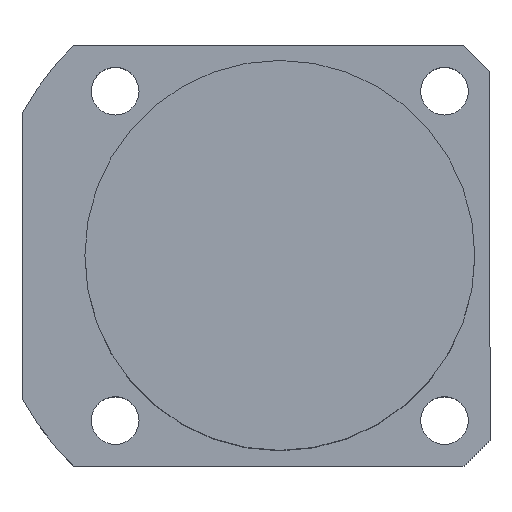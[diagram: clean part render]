
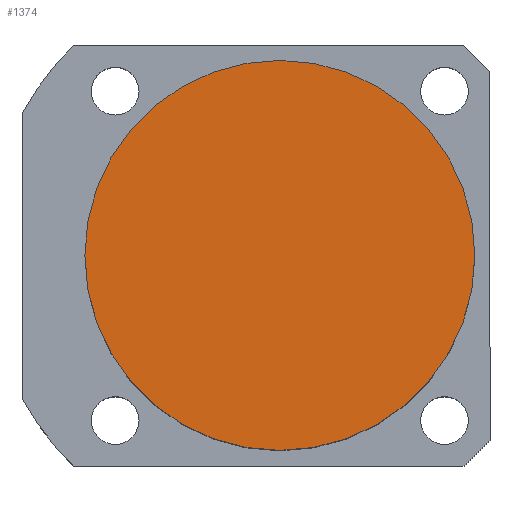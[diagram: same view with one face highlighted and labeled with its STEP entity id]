
A CAD part, top view. The second image highlights one B-rep face of the part: STEP entity #1374.
In plain terms, the highlighted planar face has unit normal (0, 0, 1).
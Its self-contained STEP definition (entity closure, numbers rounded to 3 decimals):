
#74 = DIRECTION ( 'NONE',  ( 1., 0., 0. ) ) ;
#174 = CARTESIAN_POINT ( 'NONE',  ( 45., 0., 74.5 ) ) ;
#203 = VERTEX_POINT ( 'NONE', #174 ) ;
#213 = CARTESIAN_POINT ( 'NONE',  ( 0., 0., 74.5 ) ) ;
#284 = DIRECTION ( 'NONE',  ( 1., 0., 0. ) ) ;
#313 = CARTESIAN_POINT ( 'NONE',  ( 0., 0., 74.5 ) ) ;
#379 = DIRECTION ( 'NONE',  ( 1., 0., 0. ) ) ;
#483 = CIRCLE ( 'NONE', #1139, 45. ) ;
#567 = CARTESIAN_POINT ( 'NONE',  ( 0., 0., 74.5 ) ) ;
#705 = DIRECTION ( 'NONE',  ( 0., 0., 1. ) ) ;
#847 = EDGE_CURVE ( 'NONE', #203, #1877, #968, .T. ) ;
#968 = CIRCLE ( 'NONE', #1299, 45. ) ;
#1068 = EDGE_CURVE ( 'NONE', #1877, #203, #483, .T. ) ;
#1101 = ORIENTED_EDGE ( 'NONE', *, *, #1068, .T. ) ;
#1139 = AXIS2_PLACEMENT_3D ( 'NONE', #313, #1150, #284 ) ;
#1150 = DIRECTION ( 'NONE',  ( 0., 0., 1. ) ) ;
#1170 = AXIS2_PLACEMENT_3D ( 'NONE', #567, #705, #74 ) ;
#1224 = FACE_OUTER_BOUND ( 'NONE', #1595, .T. ) ;
#1299 = AXIS2_PLACEMENT_3D ( 'NONE', #213, #1387, #379 ) ;
#1374 = ADVANCED_FACE ( 'NONE', ( #1224 ), #1585, .T. ) ;
#1387 = DIRECTION ( 'NONE',  ( 0., 0., 1. ) ) ;
#1477 = CARTESIAN_POINT ( 'NONE',  ( -45., 0., 74.5 ) ) ;
#1483 = ORIENTED_EDGE ( 'NONE', *, *, #847, .T. ) ;
#1585 = PLANE ( 'NONE',  #1170 ) ;
#1595 = EDGE_LOOP ( 'NONE', ( #1101, #1483 ) ) ;
#1877 = VERTEX_POINT ( 'NONE', #1477 ) ;
